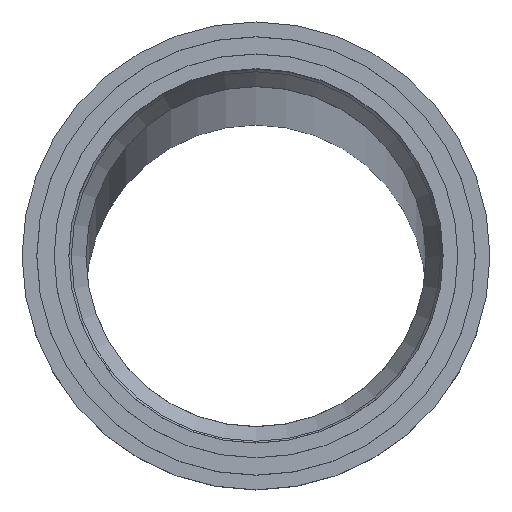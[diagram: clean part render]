
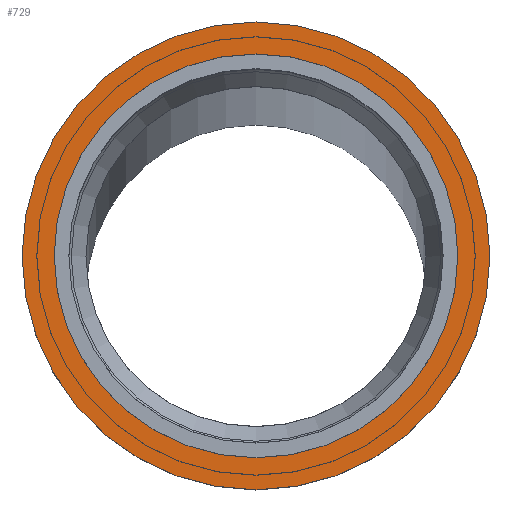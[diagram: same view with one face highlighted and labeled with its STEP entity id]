
A CAD part, top view. The second image highlights one B-rep face of the part: STEP entity #729.
In plain terms, the highlighted planar face has unit normal (0, 0, 1) as drawn and (1, 0, 0) by its records, which use the part's own axes.
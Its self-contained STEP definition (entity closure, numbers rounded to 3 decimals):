
#110=PLANE($,#811);
#138=FACE_BOUND($,#249,.T.);
#139=FACE_BOUND($,#250,.T.);
#249=EDGE_LOOP($,(#620));
#250=EDGE_LOOP($,(#621));
#299=CIRCLE($,#810,31.75);
#300=CIRCLE($,#812,27.4);
#370=VERTEX_POINT($,#1911);
#371=VERTEX_POINT($,#1914);
#457=EDGE_CURVE($,#370,#370,#299,.T.);
#458=EDGE_CURVE($,#371,#371,#300,.T.);
#620=ORIENTED_EDGE($,*,*,#458,.F.);
#621=ORIENTED_EDGE($,*,*,#457,.T.);
#729=ADVANCED_FACE($,(#138,#139),#110,.T.);
#810=AXIS2_PLACEMENT_3D($,#1912,#967,#968);
#811=AXIS2_PLACEMENT_3D($,#1913,#969,#970);
#812=AXIS2_PLACEMENT_3D($,#1915,#971,#972);
#967=DIRECTION('center_axis',(1.,0.,0.));
#968=DIRECTION('ref_axis',(0.,1.,0.));
#969=DIRECTION('center_axis',(1.,0.,0.));
#970=DIRECTION('ref_axis',(0.,0.,-1.));
#971=DIRECTION('center_axis',(1.,0.,0.));
#972=DIRECTION('ref_axis',(0.,1.,0.));
#1911=CARTESIAN_POINT('',(57.,31.75,0.));
#1912=CARTESIAN_POINT('Origin',(57.,0.,0.));
#1913=CARTESIAN_POINT('Origin',(57.,29.575,0.));
#1914=CARTESIAN_POINT('',(57.,27.4,0.));
#1915=CARTESIAN_POINT('Origin',(57.,0.,0.));
